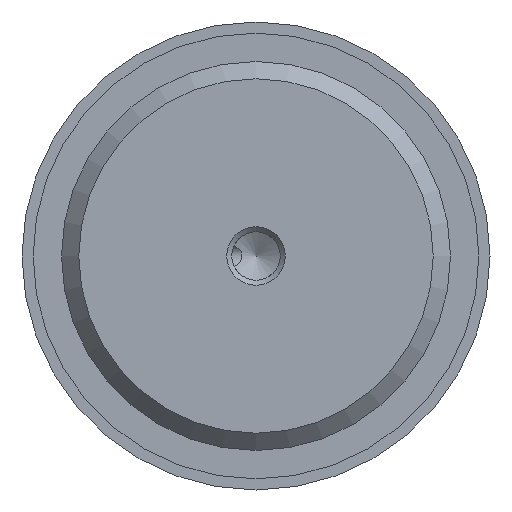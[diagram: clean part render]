
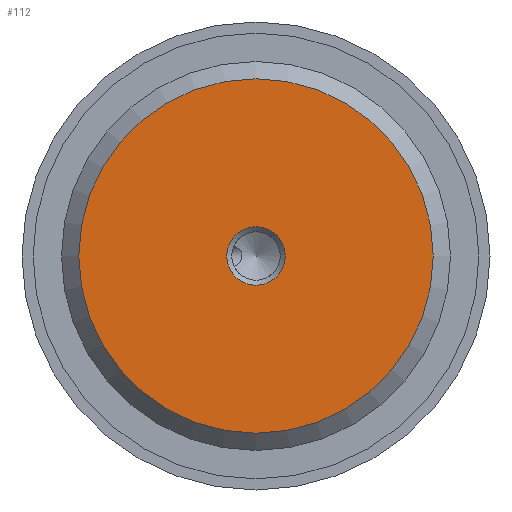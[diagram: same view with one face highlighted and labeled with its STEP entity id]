
A CAD part, front view. The second image highlights one B-rep face of the part: STEP entity #112.
In plain terms, the highlighted planar face has unit normal (0, -1, 0).
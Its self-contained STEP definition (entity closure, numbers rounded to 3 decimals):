
#112 = ADVANCED_FACE( '', ( #208, #209 ), #210, .F. );
#208 = FACE_BOUND( '', #330, .T. );
#209 = FACE_OUTER_BOUND( '', #331, .T. );
#210 = PLANE( '', #332 );
#330 = EDGE_LOOP( '', ( #652 ) );
#331 = EDGE_LOOP( '', ( #653 ) );
#332 = AXIS2_PLACEMENT_3D( '', #654, #655, #656 );
#652 = ORIENTED_EDGE( '', *, *, #874, .F. );
#653 = ORIENTED_EDGE( '', *, *, #876, .T. );
#654 = CARTESIAN_POINT( '', ( 15.146, 0., 0. ) );
#655 = DIRECTION( '', ( 0., 1., 0. ) );
#656 = DIRECTION( '', ( 0., 0., 1. ) );
#874 = EDGE_CURVE( '', #1066, #1066, #1067, .T. );
#876 = EDGE_CURVE( '', #1070, #1070, #1071, .T. );
#1066 = VERTEX_POINT( '', #1467 );
#1067 = CIRCLE( '', #1468, 2.5 );
#1070 = VERTEX_POINT( '', #1471 );
#1071 = CIRCLE( '', #1472, 15.146 );
#1467 = CARTESIAN_POINT( '', ( 2.5, 0., 0. ) );
#1468 = AXIS2_PLACEMENT_3D( '', #1603, #1604, #1605 );
#1471 = CARTESIAN_POINT( '', ( 0., 0., -15.146 ) );
#1472 = AXIS2_PLACEMENT_3D( '', #1609, #1610, #1611 );
#1603 = CARTESIAN_POINT( '', ( 0., 0., 0. ) );
#1604 = DIRECTION( '', ( 0., -1., 0. ) );
#1605 = DIRECTION( '', ( 1., 0., 0. ) );
#1609 = CARTESIAN_POINT( '', ( 0., 0., 0. ) );
#1610 = DIRECTION( '', ( 0., -1., 0. ) );
#1611 = DIRECTION( '', ( 0., 0., -1. ) );
